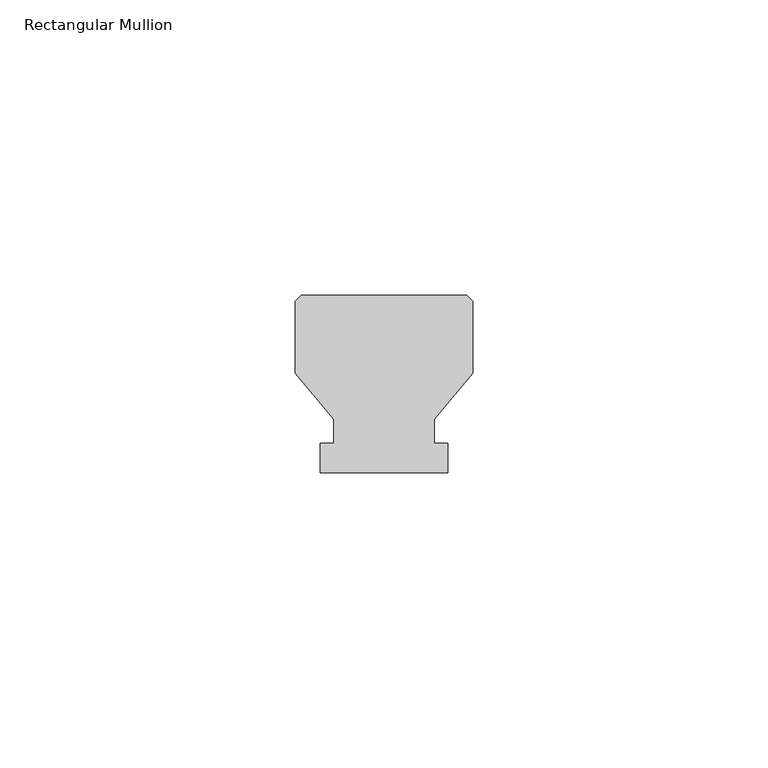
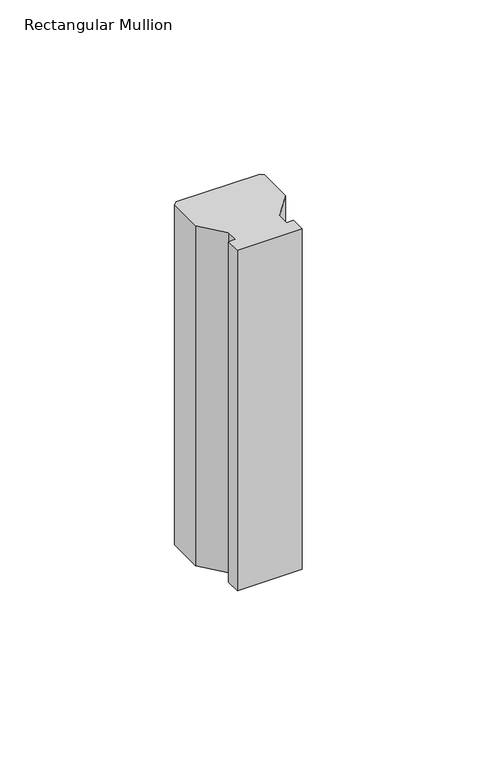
"""IFC4 building model written with IfcOpenShell, lengths in millimetres: member geometry, Rectangular Mullion : Batten_Timber_Modinex_Austratus_Grid_Fin_30x30_AlaskanYellowCedar."""

from ifc_helpers import new_model, si_unit, frame, origin, place, context, project, spatial, polyline, outline, extrude, source, transform, mapped, element, save


def rectangular_mullion_790ae51e(model_context):
    return source(origin(), model_context, "Body", "SweptSolid", [
        extrude(outline(polyline([(0.0, 16.8079815), (-6.5, 9.0), (-6.5, 5.0), (-4.187805, 5.0), (-4.187805, 0.0), (-25.812195, 0.0), (-25.812195, 5.0), (-23.5, 5.0), (-23.5, 9.0), (-30.0, 16.8079815), (-30.0, 29.0), (-29.0, 30.0), (-1.0, 30.0), (0.0, 29.0), (0.0, 16.8079815)])), frame((0.0, 0.0, -120.0), z_axis=(0.0, 0.0, 1.0), x_axis=(1.0, 0.0, 0.0)), (0.0, 0.0, 1.0), 120.0),
    ])


if __name__ == "__main__":
    model = new_model("IFC4")
    model_context = context("Model", 3, world=origin())
    ifc_project = project(units=[si_unit("LENGTHUNIT", "METRE", prefix="MILLI")], contexts=[model_context])
    site = spatial("IfcSite", under=ifc_project)
    building = spatial("IfcBuilding", under=site)
    placement = place(None, origin())
    rectangular_mullion_shape = rectangular_mullion_790ae51e(model_context)
    element("IfcMember", 1, ObjectType="Rectangular Mullion : Batten_Timber_Modinex_Austratus_Grid_Fin_30x30_AlaskanYellowCedar", at=placement, inside=building, context=model_context, shape_type="MappedRepresentation", body=[
        mapped(rectangular_mullion_shape, transform((0.0, 0.0, 0.0), x_axis=(1.0, 0.0, 0.0), y_axis=(0.0, 1.0, 0.0), z_axis=(0.0, 0.0, 1.0))),
    ])
    save(model, "model.ifc")
